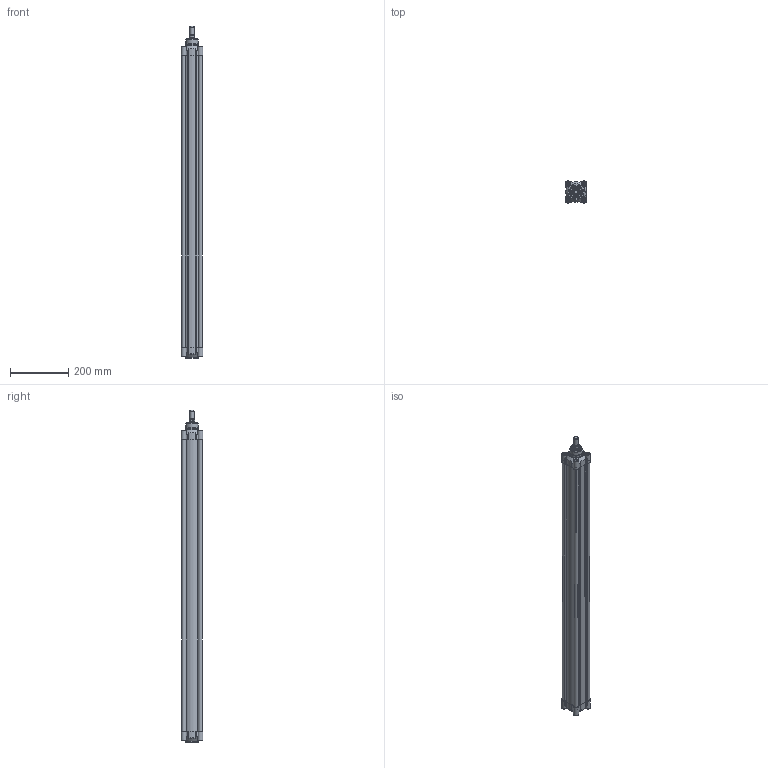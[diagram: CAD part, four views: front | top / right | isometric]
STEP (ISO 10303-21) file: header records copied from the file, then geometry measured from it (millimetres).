
FILE_DESCRIPTION(/* description */ ('CILINDRO D.E. MAGNETICO AMMORTIZZATO ISO 15552'),/* implementation_level */ '2;1');
FILE_NAME(/* name */ 'T:\Archivio Inventor\- 00 NUOVI STP PER SITO CON STELO CHE SI MUOVE\SERIE H - U\SERIE HDM\HDM063 - TUBO NUOVO\HDM063.950.GS.M.stp',/* time_stamp */ '2018-07-30T15:09:24+02:00',/* author */ ('carlo.corazza'),/* organization */ (''),/* preprocessor_version */ 'ST-DEVELOPER v16.5',/* originating_system */ 'Autodesk Inventor 2017',/* authorisation */ '');
FILE_SCHEMA (('AUTOMOTIVE_DESIGN { 1 0 10303 214 3 1 1 }'));
Length unit declared in the file: millimetre
Products named in the file (5): HDM063.950.GS.M; TP; TA; STELO-950; CORPO-950
Assembly tree (4 placements, depth 2):
  HDM063.950.GS.M
    TP
    TA
    STELO-950
    CORPO-950
Bounding box: 75 x 75 x 1144 mm (x, y, z)
Volume: 1516125.5 mm3; surface area: 850838.7 mm2
Topology: 4 solids, 27 shells, 1241 faces, 2936 edges, 1818 vertices
Faces by surface type: plane 368, cylinder 297, bspline 288, torus 108, cone 106, sphere 74
Full cylindrical faces by diameter (mm): 3 x2, 3.4 x2, 4.8 x2, 5.25 x2, 6.647 x8, 8 x8, 8.3 x12, 9.8 x4, 9.9 x2, 10 x6, 12 x3, 13 x8, 13.3 x8, 13.5 x1, 14.95 x2, 16 x1, 19.5 x1, 20 x1, 20.8 x1, 20.847 x1, 24 x1, 26 x2, 30 x3, 42 x1, 45 x2, 63 x1
Entity records: 40768 total; most frequent: CARTESIAN_POINT 13071, ORIENTED_EDGE 5326, DIRECTION 5100, EDGE_CURVE 2663, AXIS2_PLACEMENT_3D 2037, VERTEX_POINT 1763, EDGE_LOOP 1576, STYLED_ITEM 1245
